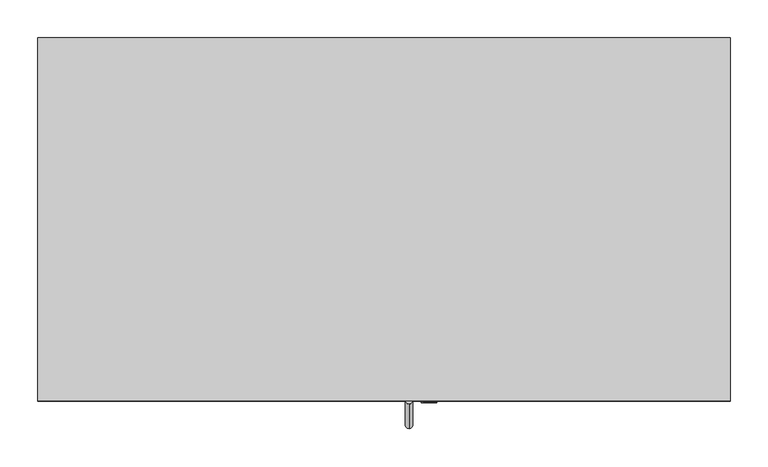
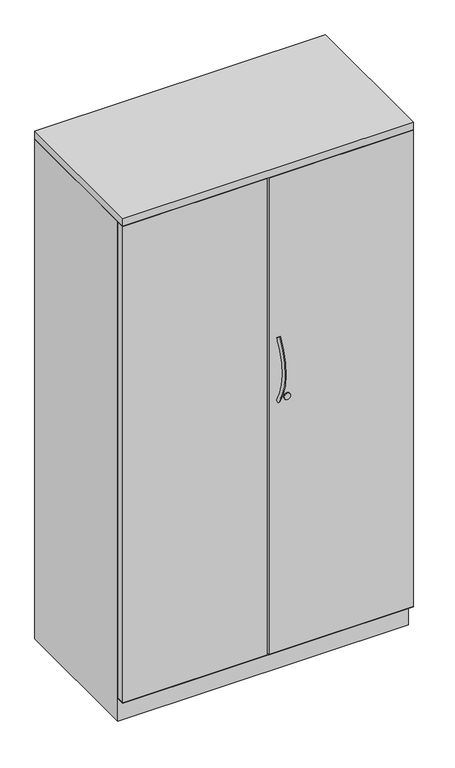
"""IFC4 building model written with IfcOpenShell, lengths in millimetres: furniture geometry, Steelcase - Universal Storage - Cabinet - Storage - 66H-84H - Proud Steel : 66H x 18D x 36W."""

from ifc_helpers import new_model, si_unit, point, frame, frame_2d, origin, place, context, project, spatial, polyline, circle_curve, ellipse_curve, trimmed, segment, composite_curve, outline, extrude, faceted_brep, source, transform, mapped, element, save
from ifc_brep_helpers import plane_surface, revolved_surface, advanced_brep


def furniture_8dec63c0(model_context):
    return source(origin(), model_context, "Body", "SolidModel", [
        extrude(outline(polyline([(914.4, 0.0), (914.4, -479.552), (0.0, -479.552), (0.0, 0.0), (914.4, 0.0)])), frame((0.0, 0.0, 1663.7), z_axis=(0.0, 0.0, 1.0), x_axis=(1.0, 0.0, 0.0)), (0.0, 0.0, 1.0), 25.4),
        extrude(outline(polyline([(0.0, -479.552), (0.0, -454.1528418), (454.66, -454.1528418), (454.66, -479.552), (0.0, -479.552)])), frame((0.0, 0.0, 77.724), z_axis=(0.0, 0.0, 1.0), x_axis=(1.0, 0.0, 0.0)), (0.0, 0.0, 1.0), 1584.452),
        extrude(outline(polyline([(914.4, -454.1528418), (914.4, -479.552), (459.74, -479.552), (459.74, -454.1528418), (914.4, -454.1528418)])), frame((0.0, 0.0, 77.724), z_axis=(0.0, 0.0, 1.0), x_axis=(1.0, 0.0, 0.0)), (0.0, 0.0, 1.0), 1584.452),
        extrude(outline(composite_curve([segment(trimmed(circle_curve(frame_2d((917.702, 516.7418131)), 10.16), [point((917.702, 526.9018131))], [point((917.702, 506.5818131))], False, "CARTESIAN"), True, "CONTINUOUS"), segment(trimmed(circle_curve(frame_2d((917.702, 516.7418131)), 10.16), [point((917.702, 506.5818131))], [point((917.702, 526.9018131))], False, "CARTESIAN"), True, "CONTINUOUS")], self_intersect=False)), frame((0.0, -481.965031, 0.0), z_axis=(0.0, 1.0, 0.0), x_axis=(0.0, 0.0, 1.0)), (0.0, 0.0, 1.0), 2.413031),
        advanced_brep(
        [(490.2783765, -474.9744318, 1119.7196018), (490.2783765, -483.5741633, 1125.3900503), (490.2783765, -472.5471581, 911.9931915), (490.2783765, -481.0120418, 906.1233437)],
        [
            (0, 1, circle_curve(frame((490.2783765, -479.2742976, 1122.5548261), z_axis=(0.0, 0.5504787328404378, 0.83484918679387), x_axis=(0.0, -0.83484918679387, 0.5504787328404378)), 5.1504701)),
            (1, 0, circle_curve(frame((490.2783765, -479.2742976, 1122.5548261), z_axis=(0.0, 0.5504787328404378, 0.83484918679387), x_axis=(0.0, -0.83484918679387, 0.5504787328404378)), 5.1504701)),
            (2, 3, circle_curve(frame((490.2783765, -476.7796, 909.0582676), z_axis=(0.0, 0.5698361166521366, -0.8217583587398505), x_axis=(0.0, -0.8217583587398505, -0.5698361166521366)), 5.1504701)),
            (3, 2, circle_curve(frame((490.2783765, -476.7796, 909.0582676), z_axis=(0.0, 0.5698361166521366, -0.8217583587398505), x_axis=(0.0, -0.8217583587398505, -0.5698361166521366)), 5.1504701)),
            (3, 1, circle_curve(frame((490.2783765, -320.178461, 1017.6509992), z_axis=(-1.0, 0.0, 0.0), x_axis=(0.0, -0.83484918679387, 0.5504787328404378)), 195.7188256)),
            (0, 2, circle_curve(frame((490.2783765, -320.178461, 1017.6509992), z_axis=(1.0, 0.0, 0.0), x_axis=(0.0, -0.83484918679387, 0.5504787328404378)), 185.4178854)),
        ],
        [
            plane_surface(frame((490.2783765, -479.2742976, 1122.5548261), z_axis=(0.0, 0.5504787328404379, 0.83484918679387), x_axis=(-1.0, 0.0, 0.0))),
            plane_surface(frame((490.2783765, -476.7796, 909.0582676), z_axis=(0.0, 0.5698361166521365, -0.8217583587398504), x_axis=(-1.0, 0.0, 0.0))),
            revolved_surface(trimmed(ellipse_curve(frame((490.2783765, -479.2742976, 1122.5548261), z_axis=(0.0, 0.5504787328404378, 0.83484918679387), x_axis=(0.0, -0.83484918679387, 0.5504787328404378)), 5.1504701, 5.1504701), [point((490.2783765, -474.9744318, 1119.7196018))], [point((490.2783765, -483.5741633, 1125.3900503))], True, "CARTESIAN"), (490.2783765, -320.178461, 1017.6509992), (1.0, 0.0, 0.0)),
            revolved_surface(trimmed(ellipse_curve(frame((490.2783765, -479.2742976, 1122.5548261), z_axis=(0.0, 0.5504787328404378, 0.83484918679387), x_axis=(0.0, -0.83484918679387, 0.5504787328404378)), 5.1504701, 5.1504701), [point((490.2783765, -483.5741633, 1125.3900503))], [point((490.2783765, -474.9744318, 1119.7196018))], True, "CARTESIAN"), (490.2783765, -320.178461, 1017.6509992), (1.0, 0.0, 0.0)),
        ],
        [
            (0, [[1, 2]]),
            (1, [[3, 4]]),
            (2, [[5, -1, 6, -4]]),
            (3, [[-6, -2, -5, -3]]),
        ],
    ),
        extrude(outline(composite_curve([segment(trimmed(circle_curve(frame_2d((919.3669832, 517.0109835)), 9.7167829), [point((919.3669832, 526.7277664))], [point((919.3669832, 507.2942006))], False, "CARTESIAN"), True, "CONTINUOUS"), segment(trimmed(circle_curve(frame_2d((919.3669832, 517.0109835)), 9.7167829), [point((919.3669832, 507.2942006))], [point((919.3669832, 526.7277664))], False, "CARTESIAN"), True, "CONTINUOUS")], self_intersect=False)), frame((0.0, -480.2215275, 0.0), z_axis=(0.0, 1.0, 0.0), x_axis=(0.0, 0.0, 1.0)), (0.0, 0.0, 1.0), 0.6695275),
        faceted_brep([(914.4, 0.0, 0.0), (914.4, -452.6288432, 0.0), (0.0, -452.6288432, 0.0), (0.0, 0.0, 0.0), (0.0, 0.0, 1662.176), (914.4, 0.0, 1662.176), (0.0, -452.6288432, 76.2), (0.0, -479.552, 76.2), (0.0, -479.552, 77.724), (0.0, -452.6288432, 77.724), (0.0, -452.6288432, 1662.176), (914.4, -452.6288432, 76.2), (914.4, -452.6288432, 1662.176), (914.4, -452.6288432, 77.724), (914.4, -479.4258418, 77.724), (914.4, -479.552, 76.2), (889.0000242, -25.4000008, 1662.176), (889.0000242, -452.6288432, 1662.176), (25.3999758, -452.6288432, 1662.176), (25.3999758, -25.4000008, 1662.176), (889.0000242, -25.4000008, 77.724), (889.0000242, -452.6288432, 77.724), (25.3999758, -452.6288432, 77.724), (25.3999758, -25.4000008, 77.724), (4.6981334, -454.1528418, 77.724), (889.0000242, -454.1528418, 77.724)], [[[0, 1, 2, 3]], [[0, 3, 4, 5]], [[4, 3, 2, 6, 7, 8, 9, 10]], [[2, 1, 11, 6]], [[1, 0, 5, 12, 13, 14, 15, 11]], [[16, 17, 12, 5, 4, 10, 18, 19]], [[17, 16, 20, 21]], [[12, 17, 21, 13]], [[18, 10, 9, 22]], [[19, 18, 22, 23]], [[16, 19, 23, 20]], [[8, 24, 25, 14, 13, 21, 20, 23, 22, 9]], [[15, 7, 6, 11]], [[24, 8, 7]], [[25, 24, 7, 15]], [[14, 25, 15]]]),
    ])


if __name__ == "__main__":
    model = new_model("IFC4")
    model_context = context("Model", 3, world=origin())
    ifc_project = project(units=[si_unit("LENGTHUNIT", "METRE", prefix="MILLI")], contexts=[model_context])
    site = spatial("IfcSite", under=ifc_project)
    building = spatial("IfcBuilding", under=site)
    placement = place(None, origin())
    furniture_shape = furniture_8dec63c0(model_context)
    element("IfcFurniture", 1, ObjectType="Steelcase - Universal Storage - Cabinet - Storage - 66H-84H - Proud Steel : 66H x 18D x 36W", at=placement, inside=building, context=model_context, shape_type="MappedRepresentation", body=[
        mapped(furniture_shape, transform((0.0, 0.0, 0.0), x_axis=(1.0, 0.0, 0.0), y_axis=(0.0, 1.0, 0.0), z_axis=(0.0, 0.0, 1.0))),
    ])
    save(model, "model.ifc")
